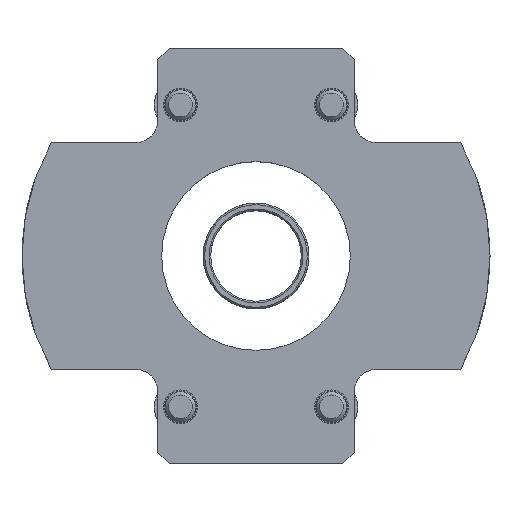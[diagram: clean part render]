
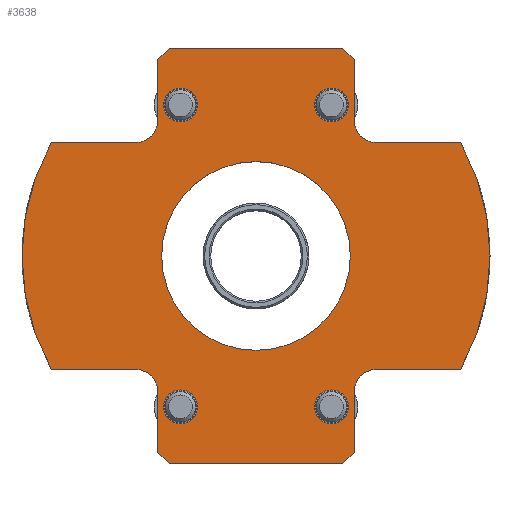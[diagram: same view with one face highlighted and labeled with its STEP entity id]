
A CAD part, top view. The second image highlights one B-rep face of the part: STEP entity #3638.
In plain terms, the highlighted planar face has unit normal (0, 0, 1) as drawn and (0, 0, -1) by its records, which use the part's own axes.
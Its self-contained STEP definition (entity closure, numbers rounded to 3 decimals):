
#174=FACE_BOUND('',#683,.T.);
#175=FACE_BOUND('',#684,.T.);
#176=FACE_BOUND('',#685,.T.);
#177=FACE_BOUND('',#686,.T.);
#178=FACE_BOUND('',#687,.T.);
#332=PLANE('',#4104);
#453=FACE_OUTER_BOUND('',#682,.T.);
#682=EDGE_LOOP('',(#2961,#2962,#2963,#2964,#2965,#2966,#2967,#2968,#2969,
#2970,#2971,#2972,#2973,#2974,#2975,#2976,#2977,#2978,#2979,#2980));
#683=EDGE_LOOP('',(#2981));
#684=EDGE_LOOP('',(#2982));
#685=EDGE_LOOP('',(#2983));
#686=EDGE_LOOP('',(#2984));
#687=EDGE_LOOP('',(#2985,#2986));
#849=LINE('',#5669,#1097);
#862=LINE('',#5709,#1110);
#874=LINE('',#5741,#1122);
#876=LINE('',#5744,#1124);
#905=LINE('',#5810,#1153);
#908=LINE('',#5815,#1156);
#910=LINE('',#5819,#1158);
#911=LINE('',#5821,#1159);
#915=LINE('',#5829,#1163);
#917=LINE('',#5832,#1165);
#960=LINE('',#5958,#1208);
#961=LINE('',#5962,#1209);
#968=LINE('',#5986,#1216);
#969=LINE('',#5990,#1217);
#1097=VECTOR('',#4573,10.);
#1110=VECTOR('',#4604,10.);
#1122=VECTOR('',#4626,10.);
#1124=VECTOR('',#4630,10.);
#1153=VECTOR('',#4675,10.);
#1156=VECTOR('',#4680,10.);
#1158=VECTOR('',#4684,10.);
#1159=VECTOR('',#4687,10.);
#1163=VECTOR('',#4693,10.);
#1165=VECTOR('',#4697,10.);
#1208=VECTOR('',#4836,10.);
#1209=VECTOR('',#4843,10.);
#1216=VECTOR('',#4870,10.);
#1217=VECTOR('',#4877,10.);
#1347=CIRCLE('',#3998,3.);
#1351=CIRCLE('',#4004,3.);
#1353=CIRCLE('',#4007,3.);
#1357=CIRCLE('',#4013,3.);
#1383=CIRCLE('',#4078,31.);
#1389=CIRCLE('',#4091,31.);
#1390=CIRCLE('',#4094,2.25);
#1391=CIRCLE('',#4096,2.25);
#1392=CIRCLE('',#4098,2.25);
#1393=CIRCLE('',#4100,2.25);
#1394=CIRCLE('',#4102,12.5);
#1395=CIRCLE('',#4103,12.5);
#1571=VERTEX_POINT('',#5658);
#1572=VERTEX_POINT('',#5660);
#1575=VERTEX_POINT('',#5668);
#1585=VERTEX_POINT('',#5689);
#1586=VERTEX_POINT('',#5691);
#1589=VERTEX_POINT('',#5698);
#1590=VERTEX_POINT('',#5700);
#1593=VERTEX_POINT('',#5708);
#1603=VERTEX_POINT('',#5729);
#1604=VERTEX_POINT('',#5731);
#1607=VERTEX_POINT('',#5738);
#1608=VERTEX_POINT('',#5740);
#1636=VERTEX_POINT('',#5807);
#1637=VERTEX_POINT('',#5809);
#1638=VERTEX_POINT('',#5813);
#1639=VERTEX_POINT('',#5817);
#1641=VERTEX_POINT('',#5826);
#1642=VERTEX_POINT('',#5828);
#1677=VERTEX_POINT('',#5956);
#1684=VERTEX_POINT('',#5984);
#1685=VERTEX_POINT('',#5992);
#1686=VERTEX_POINT('',#5996);
#1687=VERTEX_POINT('',#6000);
#1688=VERTEX_POINT('',#6004);
#1689=VERTEX_POINT('',#6008);
#1690=VERTEX_POINT('',#6009);
#1974=EDGE_CURVE('',#1571,#1572,#1347,.T.);
#1978=EDGE_CURVE('',#1572,#1575,#849,.T.);
#1989=EDGE_CURVE('',#1585,#1586,#1351,.T.);
#1993=EDGE_CURVE('',#1589,#1590,#1353,.T.);
#1997=EDGE_CURVE('',#1593,#1590,#862,.T.);
#2008=EDGE_CURVE('',#1603,#1604,#1357,.T.);
#2012=EDGE_CURVE('',#1607,#1608,#874,.T.);
#2014=EDGE_CURVE('',#1604,#1607,#876,.T.);
#2049=EDGE_CURVE('',#1636,#1637,#905,.T.);
#2052=EDGE_CURVE('',#1638,#1636,#908,.T.);
#2054=EDGE_CURVE('',#1639,#1638,#910,.T.);
#2055=EDGE_CURVE('',#1586,#1639,#911,.T.);
#2059=EDGE_CURVE('',#1641,#1642,#915,.T.);
#2061=EDGE_CURVE('',#1608,#1641,#917,.T.);
#2123=EDGE_CURVE('',#1677,#1585,#960,.T.);
#2124=EDGE_CURVE('',#1575,#1677,#1383,.T.);
#2125=EDGE_CURVE('',#1642,#1571,#961,.T.);
#2137=EDGE_CURVE('',#1603,#1684,#968,.T.);
#2138=EDGE_CURVE('',#1684,#1593,#1389,.T.);
#2139=EDGE_CURVE('',#1637,#1589,#969,.T.);
#2141=EDGE_CURVE('',#1685,#1685,#1390,.T.);
#2143=EDGE_CURVE('',#1686,#1686,#1391,.T.);
#2145=EDGE_CURVE('',#1687,#1687,#1392,.T.);
#2147=EDGE_CURVE('',#1688,#1688,#1393,.T.);
#2148=EDGE_CURVE('',#1689,#1690,#1394,.T.);
#2149=EDGE_CURVE('',#1690,#1689,#1395,.T.);
#2961=ORIENTED_EDGE('',*,*,#2012,.F.);
#2962=ORIENTED_EDGE('',*,*,#2014,.F.);
#2963=ORIENTED_EDGE('',*,*,#2008,.F.);
#2964=ORIENTED_EDGE('',*,*,#2137,.T.);
#2965=ORIENTED_EDGE('',*,*,#2138,.T.);
#2966=ORIENTED_EDGE('',*,*,#1997,.T.);
#2967=ORIENTED_EDGE('',*,*,#1993,.F.);
#2968=ORIENTED_EDGE('',*,*,#2139,.F.);
#2969=ORIENTED_EDGE('',*,*,#2049,.F.);
#2970=ORIENTED_EDGE('',*,*,#2052,.F.);
#2971=ORIENTED_EDGE('',*,*,#2054,.F.);
#2972=ORIENTED_EDGE('',*,*,#2055,.F.);
#2973=ORIENTED_EDGE('',*,*,#1989,.F.);
#2974=ORIENTED_EDGE('',*,*,#2123,.F.);
#2975=ORIENTED_EDGE('',*,*,#2124,.F.);
#2976=ORIENTED_EDGE('',*,*,#1978,.F.);
#2977=ORIENTED_EDGE('',*,*,#1974,.F.);
#2978=ORIENTED_EDGE('',*,*,#2125,.F.);
#2979=ORIENTED_EDGE('',*,*,#2059,.F.);
#2980=ORIENTED_EDGE('',*,*,#2061,.F.);
#2981=ORIENTED_EDGE('',*,*,#2141,.T.);
#2982=ORIENTED_EDGE('',*,*,#2143,.T.);
#2983=ORIENTED_EDGE('',*,*,#2145,.T.);
#2984=ORIENTED_EDGE('',*,*,#2147,.T.);
#2985=ORIENTED_EDGE('',*,*,#2148,.T.);
#2986=ORIENTED_EDGE('',*,*,#2149,.T.);
#3638=ADVANCED_FACE('',(#453,#174,#175,#176,#177,#178),#332,.F.);
#3998=AXIS2_PLACEMENT_3D('',#5661,#4565,#4566);
#4004=AXIS2_PLACEMENT_3D('',#5692,#4588,#4589);
#4007=AXIS2_PLACEMENT_3D('',#5701,#4596,#4597);
#4013=AXIS2_PLACEMENT_3D('',#5732,#4619,#4620);
#4078=AXIS2_PLACEMENT_3D('',#5960,#4839,#4840);
#4091=AXIS2_PLACEMENT_3D('',#5988,#4873,#4874);
#4094=AXIS2_PLACEMENT_3D('',#5994,#4881,#4882);
#4096=AXIS2_PLACEMENT_3D('',#5998,#4886,#4887);
#4098=AXIS2_PLACEMENT_3D('',#6002,#4891,#4892);
#4100=AXIS2_PLACEMENT_3D('',#6006,#4896,#4897);
#4102=AXIS2_PLACEMENT_3D('',#6010,#4900,#4901);
#4103=AXIS2_PLACEMENT_3D('',#6011,#4902,#4903);
#4104=AXIS2_PLACEMENT_3D('',#6013,#4905,#4906);
#4565=DIRECTION('center_axis',(0.,0.,-1.));
#4566=DIRECTION('ref_axis',(0.707,0.707,0.));
#4573=DIRECTION('',(0.,-1.,0.));
#4588=DIRECTION('center_axis',(0.,0.,-1.));
#4589=DIRECTION('ref_axis',(-0.707,0.707,0.));
#4596=DIRECTION('center_axis',(0.,0.,-1.));
#4597=DIRECTION('ref_axis',(-0.707,-0.707,0.));
#4604=DIRECTION('',(0.,-1.,0.));
#4619=DIRECTION('center_axis',(0.,0.,-1.));
#4620=DIRECTION('ref_axis',(0.707,-0.707,0.));
#4626=DIRECTION('',(-0.707,-0.707,0.));
#4630=DIRECTION('',(-1.,0.,0.));
#4675=DIRECTION('',(-0.707,0.707,0.));
#4680=DIRECTION('',(0.,1.,0.));
#4684=DIRECTION('',(0.707,0.707,0.));
#4687=DIRECTION('',(1.,0.,0.));
#4693=DIRECTION('',(0.707,-0.707,0.));
#4697=DIRECTION('',(0.,-1.,0.));
#4836=DIRECTION('',(0.,1.,0.));
#4839=DIRECTION('center_axis',(0.,0.,1.));
#4840=DIRECTION('ref_axis',(0.484,-0.875,0.));
#4843=DIRECTION('',(1.,0.,0.));
#4870=DIRECTION('',(0.,1.,0.));
#4873=DIRECTION('center_axis',(0.,0.,-1.));
#4874=DIRECTION('ref_axis',(0.484,0.875,0.));
#4877=DIRECTION('',(-1.,0.,0.));
#4881=DIRECTION('center_axis',(0.,0.,1.));
#4882=DIRECTION('ref_axis',(1.,0.,0.));
#4886=DIRECTION('center_axis',(0.,0.,1.));
#4887=DIRECTION('ref_axis',(1.,0.,0.));
#4891=DIRECTION('center_axis',(0.,0.,1.));
#4892=DIRECTION('ref_axis',(1.,0.,0.));
#4896=DIRECTION('center_axis',(0.,0.,1.));
#4897=DIRECTION('ref_axis',(1.,0.,0.));
#4900=DIRECTION('center_axis',(0.,0.,1.));
#4901=DIRECTION('ref_axis',(1.,0.,0.));
#4902=DIRECTION('center_axis',(0.,0.,1.));
#4903=DIRECTION('ref_axis',(1.,0.,0.));
#4905=DIRECTION('center_axis',(0.,0.,1.));
#4906=DIRECTION('ref_axis',(1.,0.,0.));
#5658=CARTESIAN_POINT('',(-18.,-13.,0.));
#5660=CARTESIAN_POINT('',(-15.,-16.,0.));
#5661=CARTESIAN_POINT('Origin',(-18.,-16.,0.));
#5668=CARTESIAN_POINT('',(-15.,-27.129,0.));
#5669=CARTESIAN_POINT('',(-15.,-17.5,0.));
#5689=CARTESIAN_POINT('',(15.,-16.,0.));
#5691=CARTESIAN_POINT('',(18.,-13.,0.));
#5692=CARTESIAN_POINT('Origin',(18.,-16.,0.));
#5698=CARTESIAN_POINT('',(18.,13.,0.));
#5700=CARTESIAN_POINT('',(15.,16.,0.));
#5701=CARTESIAN_POINT('Origin',(18.,16.,0.));
#5708=CARTESIAN_POINT('',(15.,27.129,0.));
#5709=CARTESIAN_POINT('',(15.,24.565,0.));
#5729=CARTESIAN_POINT('',(-15.,16.,0.));
#5731=CARTESIAN_POINT('',(-18.,13.,0.));
#5732=CARTESIAN_POINT('Origin',(-18.,16.,0.));
#5738=CARTESIAN_POINT('',(-26.,13.,0.));
#5740=CARTESIAN_POINT('',(-27.5,11.5,0.));
#5741=CARTESIAN_POINT('',(-23.125,15.875,0.));
#5744=CARTESIAN_POINT('',(27.5,13.,0.));
#5807=CARTESIAN_POINT('',(27.5,11.5,0.));
#5809=CARTESIAN_POINT('',(26.,13.,0.));
#5810=CARTESIAN_POINT('',(23.125,15.875,0.));
#5813=CARTESIAN_POINT('',(27.5,-11.5,0.));
#5815=CARTESIAN_POINT('',(27.5,-13.,0.));
#5817=CARTESIAN_POINT('',(26.,-13.,0.));
#5819=CARTESIAN_POINT('',(23.125,-15.875,0.));
#5821=CARTESIAN_POINT('',(-27.5,-13.,0.));
#5826=CARTESIAN_POINT('',(-27.5,-11.5,0.));
#5828=CARTESIAN_POINT('',(-26.,-13.,0.));
#5829=CARTESIAN_POINT('',(-23.125,-15.875,0.));
#5832=CARTESIAN_POINT('',(-27.5,13.,0.));
#5956=CARTESIAN_POINT('',(15.,-27.129,0.));
#5958=CARTESIAN_POINT('',(15.,-24.565,0.));
#5960=CARTESIAN_POINT('Origin',(0.,0.,0.));
#5962=CARTESIAN_POINT('',(-27.5,-13.,0.));
#5984=CARTESIAN_POINT('',(-15.,27.129,0.));
#5986=CARTESIAN_POINT('',(-15.,17.5,0.));
#5988=CARTESIAN_POINT('Origin',(0.,0.,0.));
#5990=CARTESIAN_POINT('',(27.5,13.,0.));
#5992=CARTESIAN_POINT('',(17.75,10.,0.));
#5994=CARTESIAN_POINT('Origin',(20.,10.,0.));
#5996=CARTESIAN_POINT('',(-22.25,-10.,0.));
#5998=CARTESIAN_POINT('Origin',(-20.,-10.,0.));
#6000=CARTESIAN_POINT('',(-22.25,10.,0.));
#6002=CARTESIAN_POINT('Origin',(-20.,10.,0.));
#6004=CARTESIAN_POINT('',(17.75,-10.,0.));
#6006=CARTESIAN_POINT('Origin',(20.,-10.,0.));
#6008=CARTESIAN_POINT('',(12.5,0.,0.));
#6009=CARTESIAN_POINT('',(-12.5,0.,0.));
#6010=CARTESIAN_POINT('Origin',(0.,0.,0.));
#6011=CARTESIAN_POINT('Origin',(0.,0.,0.));
#6013=CARTESIAN_POINT('Origin',(0.,0.,
0.));
